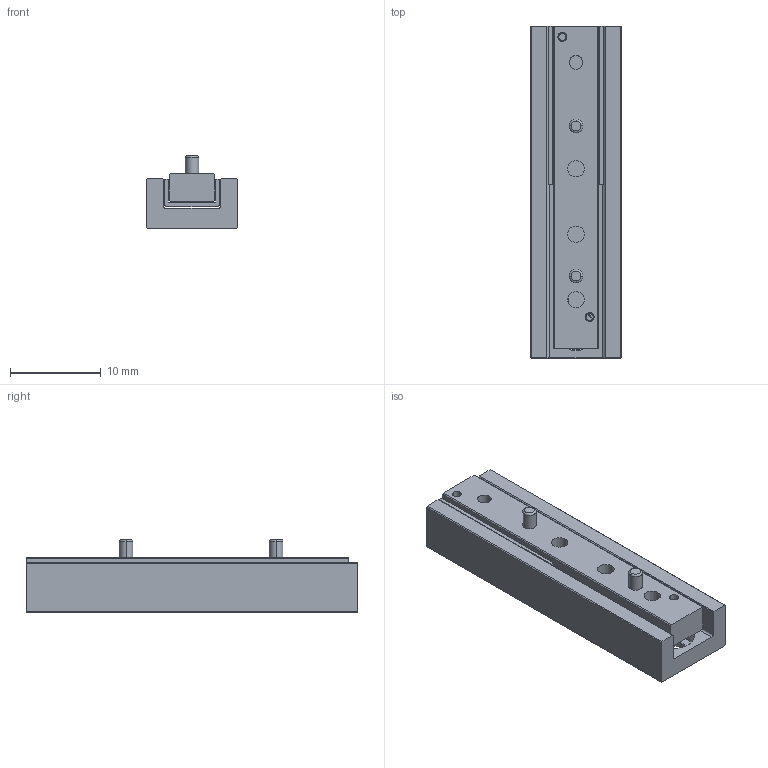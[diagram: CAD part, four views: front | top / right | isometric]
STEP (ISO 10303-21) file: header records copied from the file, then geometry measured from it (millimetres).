
FILE_DESCRIPTION(/* description */ (''),/* implementation_level */ '2;1');
FILE_NAME(/* name */ 'CR18-02 MS 5-36.39.stp',/* time_stamp */ '2025-02-28T14:42:57+08:00',/* author */ (''),/* organization */ (''),/* preprocessor_version */ 'ST-DEVELOPER v16.7',/* originating_system */ 'SIEMENS PLM Software NX 12.0',/* authorisation */ '');
FILE_SCHEMA (('AUTOMOTIVE_DESIGN { 1 0 10303 214 3 1 1 1 }'));
Length unit declared in the file: millimetre
Products named in the file (1): CR18-02 MS 5-36.39
Bounding box: 10 x 36.5 x 8 mm (x, y, z)
Volume: 1755.4 mm3; surface area: 2578.4 mm2
Topology: 3 solids, 3 shells, 121 faces, 288 edges, 186 vertices
Faces by surface type: cylinder 53, plane 50, cone 10, torus 8
Entity records: 3604 total; most frequent: DIRECTION 664, CARTESIAN_POINT 596, ORIENTED_EDGE 576, EDGE_CURVE 288, AXIS2_PLACEMENT_3D 254, VERTEX_POINT 186, LINE 156, VECTOR 156
